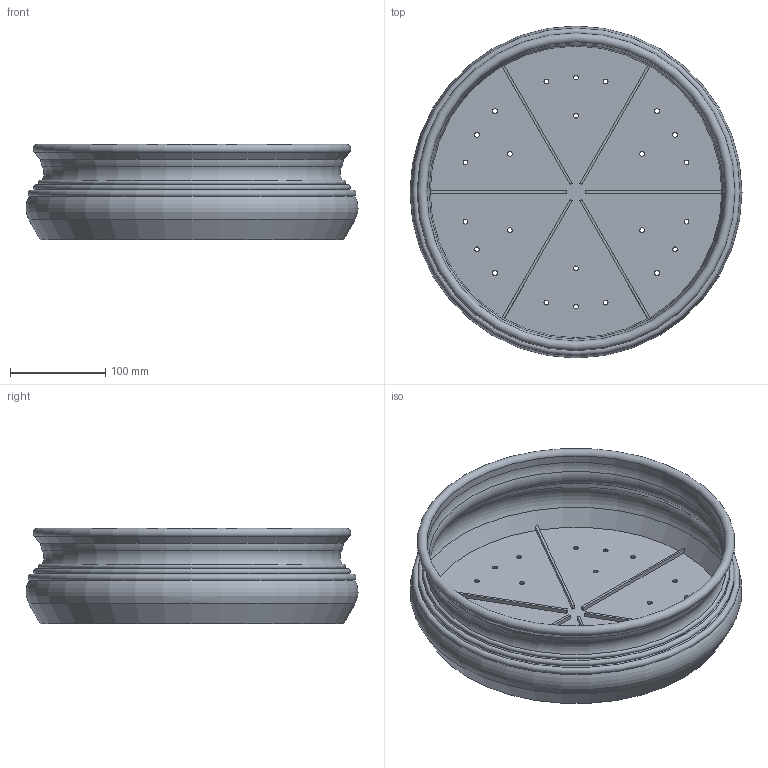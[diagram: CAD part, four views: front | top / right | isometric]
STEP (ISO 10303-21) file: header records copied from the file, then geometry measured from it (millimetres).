
FILE_DESCRIPTION(/* description */ (''),/* implementation_level */ '2;1');
FILE_NAME(/* name */ 'LR2406-S25-H100-D350_step.step',/* time_stamp */ '2024-02-01T10:59:26+01:00',/* author */ (''),/* organization */ (''),/* preprocessor_version */ 'ST-DEVELOPER v20',/* originating_system */ 'Autodesk Translation Framework v12.20.1.177',/* authorisation */ '');
FILE_SCHEMA (('AUTOMOTIVE_DESIGN { 1 0 10303 214 3 1 1 }'));
Length unit declared in the file: millimetre
Products named in the file (1): LR2406-S25-H100-D350
Bounding box: 348 x 348 x 100 mm (x, y, z)
Volume: 561284.4 mm3; surface area: 403816.1 mm2
Topology: 1 solids, 1 shells, 67 faces, 179 edges, 114 vertices
Faces by surface type: cylinder 31, plane 20, torus 10, cone 6
Full cylindrical faces by diameter (mm): 5 x24, 313 x1
Entity records: 2261 total; most frequent: DIRECTION 415, CARTESIAN_POINT 361, ORIENTED_EDGE 358, EDGE_CURVE 179, AXIS2_PLACEMENT_3D 168, EDGE_LOOP 115, VERTEX_POINT 114, CIRCLE 100
